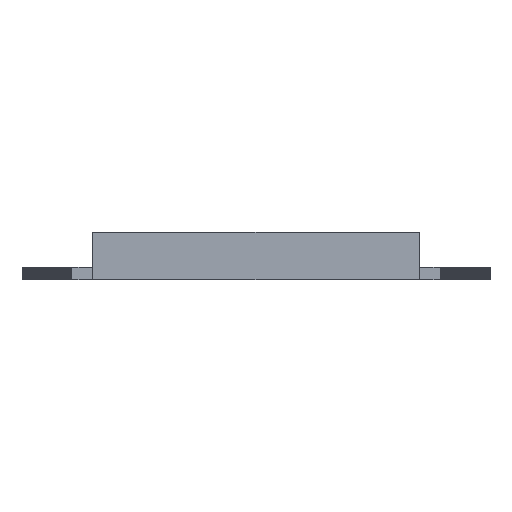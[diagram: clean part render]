
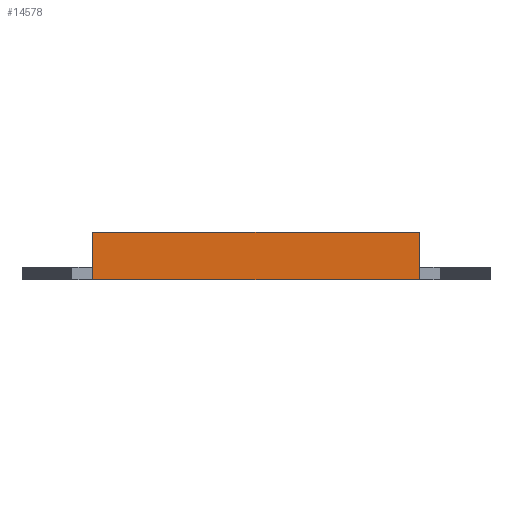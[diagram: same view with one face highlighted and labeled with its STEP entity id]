
A CAD part, front view. The second image highlights one B-rep face of the part: STEP entity #14578.
In plain terms, the highlighted planar face has unit normal (0, -1, 0).
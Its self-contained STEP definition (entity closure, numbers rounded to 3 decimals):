
#126 = PLANE('',#127);
#127 = AXIS2_PLACEMENT_3D('',#128,#129,#130);
#128 = CARTESIAN_POINT('',(112.5,10.179,0.));
#129 = DIRECTION('',(-0.,-0.,-1.));
#130 = DIRECTION('',(-1.,0.,0.));
#7711 = VERTEX_POINT('',#7712);
#7712 = CARTESIAN_POINT('',(205.,-17.34,0.));
#7726 = PLANE('',#7727);
#7727 = AXIS2_PLACEMENT_3D('',#7728,#7729,#7730);
#7728 = CARTESIAN_POINT('',(205.,-17.34,0.));
#7729 = DIRECTION('',(1.,0.,0.));
#7730 = DIRECTION('',(0.,0.,1.));
#7738 = EDGE_CURVE('',#7739,#7711,#7741,.T.);
#7739 = VERTEX_POINT('',#7740);
#7740 = CARTESIAN_POINT('',(20.,-17.34,0.));
#7741 = SURFACE_CURVE('',#7742,(#7746,#7753),.PCURVE_S1.);
#7742 = LINE('',#7743,#7744);
#7743 = CARTESIAN_POINT('',(20.,-17.34,0.));
#7744 = VECTOR('',#7745,1.);
#7745 = DIRECTION('',(1.,0.,0.));
#7746 = PCURVE('',#126,#7747);
#7747 = DEFINITIONAL_REPRESENTATION('',(#7748),#7752);
#7748 = LINE('',#7749,#7750);
#7749 = CARTESIAN_POINT('',(92.5,-27.519));
#7750 = VECTOR('',#7751,1.);
#7751 = DIRECTION('',(-1.,0.));
#7752 = ( GEOMETRIC_REPRESENTATION_CONTEXT(2) 
PARAMETRIC_REPRESENTATION_CONTEXT() REPRESENTATION_CONTEXT('2D SPACE',''
  ) );
#7753 = PCURVE('',#7754,#7759);
#7754 = PLANE('',#7755);
#7755 = AXIS2_PLACEMENT_3D('',#7756,#7757,#7758);
#7756 = CARTESIAN_POINT('',(20.,-17.34,0.));
#7757 = DIRECTION('',(0.,1.,0.));
#7758 = DIRECTION('',(0.,0.,1.));
#7759 = DEFINITIONAL_REPRESENTATION('',(#7760),#7764);
#7760 = LINE('',#7761,#7762);
#7761 = CARTESIAN_POINT('',(0.,0.));
#7762 = VECTOR('',#7763,1.);
#7763 = DIRECTION('',(0.,1.));
#7764 = ( GEOMETRIC_REPRESENTATION_CONTEXT(2) 
PARAMETRIC_REPRESENTATION_CONTEXT() REPRESENTATION_CONTEXT('2D SPACE',''
  ) );
#7782 = PLANE('',#7783);
#7783 = AXIS2_PLACEMENT_3D('',#7784,#7785,#7786);
#7784 = CARTESIAN_POINT('',(20.,-17.34,0.));
#7785 = DIRECTION('',(1.,0.,0.));
#7786 = DIRECTION('',(0.,0.,1.));
#14504 = VERTEX_POINT('',#14505);
#14505 = CARTESIAN_POINT('',(20.,-17.34,27.));
#14519 = PLANE('',#14520);
#14520 = AXIS2_PLACEMENT_3D('',#14521,#14522,#14523);
#14521 = CARTESIAN_POINT('',(20.,-17.34,27.));
#14522 = DIRECTION('',(0.,0.,1.));
#14523 = DIRECTION('',(1.,0.,0.));
#14531 = EDGE_CURVE('',#14504,#7739,#14532,.T.);
#14532 = SURFACE_CURVE('',#14533,(#14537,#14544),.PCURVE_S1.);
#14533 = LINE('',#14534,#14535);
#14534 = CARTESIAN_POINT('',(20.,-17.34,27.));
#14535 = VECTOR('',#14536,1.);
#14536 = DIRECTION('',(0.,0.,-1.));
#14537 = PCURVE('',#7782,#14538);
#14538 = DEFINITIONAL_REPRESENTATION('',(#14539),#14543);
#14539 = LINE('',#14540,#14541);
#14540 = CARTESIAN_POINT('',(27.,0.));
#14541 = VECTOR('',#14542,1.);
#14542 = DIRECTION('',(-1.,0.));
#14543 = ( GEOMETRIC_REPRESENTATION_CONTEXT(2) 
PARAMETRIC_REPRESENTATION_CONTEXT() REPRESENTATION_CONTEXT('2D SPACE',''
  ) );
#14544 = PCURVE('',#7754,#14545);
#14545 = DEFINITIONAL_REPRESENTATION('',(#14546),#14550);
#14546 = LINE('',#14547,#14548);
#14547 = CARTESIAN_POINT('',(27.,0.));
#14548 = VECTOR('',#14549,1.);
#14549 = DIRECTION('',(-1.,0.));
#14550 = ( GEOMETRIC_REPRESENTATION_CONTEXT(2) 
PARAMETRIC_REPRESENTATION_CONTEXT() REPRESENTATION_CONTEXT('2D SPACE',''
  ) );
#14578 = ADVANCED_FACE('',(#14579),#7754,.F.);
#14579 = FACE_BOUND('',#14580,.F.);
#14580 = EDGE_LOOP('',(#14581,#14582,#14583,#14606));
#14581 = ORIENTED_EDGE('',*,*,#7738,.F.);
#14582 = ORIENTED_EDGE('',*,*,#14531,.F.);
#14583 = ORIENTED_EDGE('',*,*,#14584,.T.);
#14584 = EDGE_CURVE('',#14504,#14585,#14587,.T.);
#14585 = VERTEX_POINT('',#14586);
#14586 = CARTESIAN_POINT('',(205.,-17.34,27.));
#14587 = SURFACE_CURVE('',#14588,(#14592,#14599),.PCURVE_S1.);
#14588 = LINE('',#14589,#14590);
#14589 = CARTESIAN_POINT('',(20.,-17.34,27.));
#14590 = VECTOR('',#14591,1.);
#14591 = DIRECTION('',(1.,0.,0.));
#14592 = PCURVE('',#7754,#14593);
#14593 = DEFINITIONAL_REPRESENTATION('',(#14594),#14598);
#14594 = LINE('',#14595,#14596);
#14595 = CARTESIAN_POINT('',(27.,0.));
#14596 = VECTOR('',#14597,1.);
#14597 = DIRECTION('',(0.,1.));
#14598 = ( GEOMETRIC_REPRESENTATION_CONTEXT(2) 
PARAMETRIC_REPRESENTATION_CONTEXT() REPRESENTATION_CONTEXT('2D SPACE',''
  ) );
#14599 = PCURVE('',#14519,#14600);
#14600 = DEFINITIONAL_REPRESENTATION('',(#14601),#14605);
#14601 = LINE('',#14602,#14603);
#14602 = CARTESIAN_POINT('',(0.,0.));
#14603 = VECTOR('',#14604,1.);
#14604 = DIRECTION('',(1.,0.));
#14605 = ( GEOMETRIC_REPRESENTATION_CONTEXT(2) 
PARAMETRIC_REPRESENTATION_CONTEXT() REPRESENTATION_CONTEXT('2D SPACE',''
  ) );
#14606 = ORIENTED_EDGE('',*,*,#14607,.T.);
#14607 = EDGE_CURVE('',#14585,#7711,#14608,.T.);
#14608 = SURFACE_CURVE('',#14609,(#14613,#14620),.PCURVE_S1.);
#14609 = LINE('',#14610,#14611);
#14610 = CARTESIAN_POINT('',(205.,-17.34,27.));
#14611 = VECTOR('',#14612,1.);
#14612 = DIRECTION('',(0.,0.,-1.));
#14613 = PCURVE('',#7754,#14614);
#14614 = DEFINITIONAL_REPRESENTATION('',(#14615),#14619);
#14615 = LINE('',#14616,#14617);
#14616 = CARTESIAN_POINT('',(27.,185.));
#14617 = VECTOR('',#14618,1.);
#14618 = DIRECTION('',(-1.,0.));
#14619 = ( GEOMETRIC_REPRESENTATION_CONTEXT(2) 
PARAMETRIC_REPRESENTATION_CONTEXT() REPRESENTATION_CONTEXT('2D SPACE',''
  ) );
#14620 = PCURVE('',#7726,#14621);
#14621 = DEFINITIONAL_REPRESENTATION('',(#14622),#14626);
#14622 = LINE('',#14623,#14624);
#14623 = CARTESIAN_POINT('',(27.,0.));
#14624 = VECTOR('',#14625,1.);
#14625 = DIRECTION('',(-1.,0.));
#14626 = ( GEOMETRIC_REPRESENTATION_CONTEXT(2) 
PARAMETRIC_REPRESENTATION_CONTEXT() REPRESENTATION_CONTEXT('2D SPACE',''
  ) );
